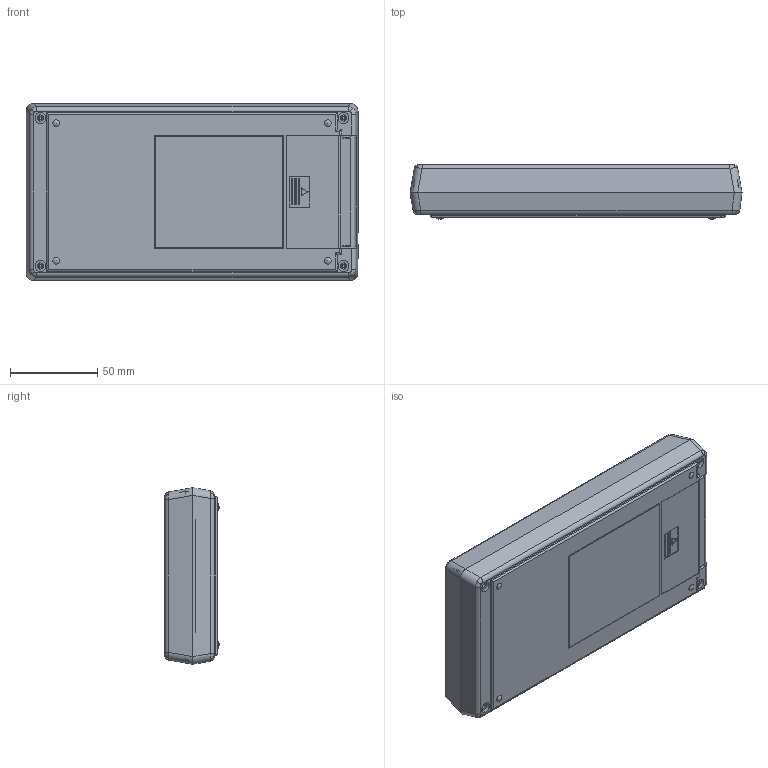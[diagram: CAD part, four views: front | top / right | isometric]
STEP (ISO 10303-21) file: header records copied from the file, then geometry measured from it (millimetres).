
FILE_DESCRIPTION (( 'STEP AP214' ), '1' );
FILE_NAME ('101-41-2A-R.STEP', '2019-12-01T01:17:30', ( 'Rudy' ), ( '' ), 'SwSTEP 2.0', 'SolidWorks 2014', '' );
FILE_SCHEMA (( 'AUTOMOTIVE_DESIGN' ));
Length unit declared in the file: millimetre
Products named in the file (4): 2AAdoor; 100-04-LCD Top; 100-01 BOT-2AA; 101-41-2A-R
Assembly tree (3 placements, depth 2):
  101-41-2A-R
    100-01 BOT-2AA
    100-04-LCD Top
    2AAdoor
Bounding box: 190.6 x 31.3 x 101.4 mm (x, y, z)
Volume: 110212.8 mm3; surface area: 119909.9 mm2
Topology: 3 solids, 3 shells, 758 faces, 2038 edges, 1284 vertices
Faces by surface type: plane 472, cylinder 200, bspline 44, cone 26, torus 12, sphere 4
Entity records: 24675 total; most frequent: CARTESIAN_POINT 6232, ORIENTED_EDGE 3996, DIRECTION 3547, EDGE_CURVE 1998, LINE 1453, VECTOR 1453, VERTEX_POINT 1276, AXIS2_PLACEMENT_3D 1047
